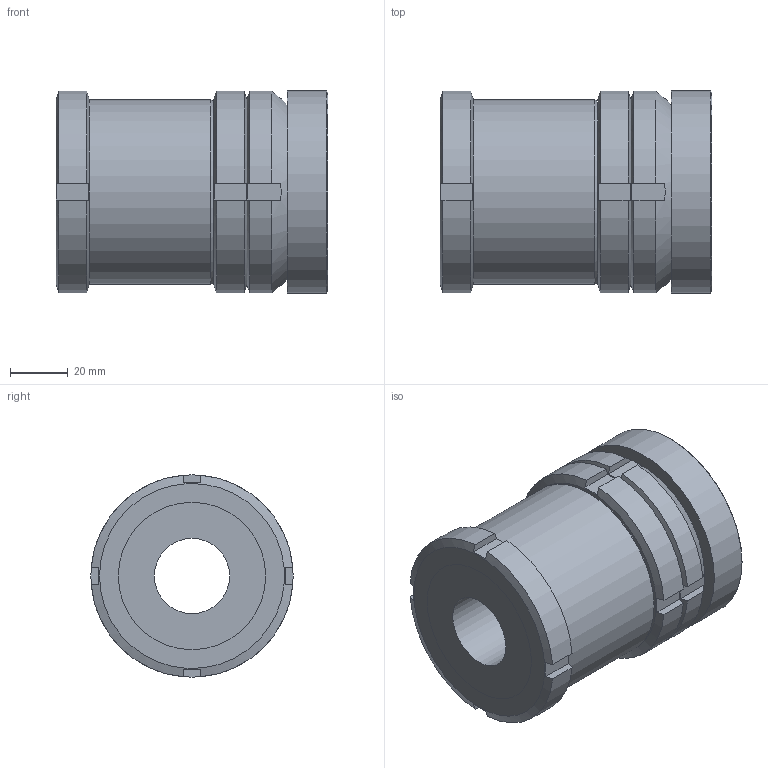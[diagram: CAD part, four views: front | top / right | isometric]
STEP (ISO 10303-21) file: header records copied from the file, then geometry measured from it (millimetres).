
FILE_DESCRIPTION( ( 'STEP AP203' ), '1' );
FILE_NAME( 'C:/Temp/Ganter_Step_05_03_2020/data/3_2/gn350_5/gn350_5_st/Levelling set GN 350.5-70-26-94-ST (0-0).stp', '2020-03-13T05:28:38', ( 'License CC BY-ND 4.0' ), ( 'CADENAS' ), ' ', 'PARTsolutions', ' ' );
FILE_SCHEMA( ( 'CONFIG_CONTROL_DESIGN' ) );
Length unit declared in the file: millimetre
Products named in the file (5): Levelling set GN 350.5-70-26-94-ST (0-0); _Levelling set GN 350.5-70-26-94-ST-G; _Levelling set GN 350.5-70-26-94-ST-K; _Levelling set GN 350.5-70-26-94-ST-P(0); _Levelling set GN 350.5-70-26-61-ST-KM
Assembly tree (4 placements, depth 2):
  Levelling set GN 350.5-70-26-94-ST (0-0)
    _Levelling set GN 350.5-70-26-94-ST-G
    _Levelling set GN 350.5-70-26-94-ST-K
    _Levelling set GN 350.5-70-26-94-ST-P(0)
    _Levelling set GN 350.5-70-26-61-ST-KM
Bounding box: 94 x 70 x 70 mm (x, y, z)
Volume: 275340.5 mm3; surface area: 69321.9 mm2
Topology: 4 solids, 4 shells, 85 faces, 211 edges, 140 vertices
Faces by surface type: plane 50, cylinder 24, cone 9, sphere 2
Full cylindrical faces by diameter (mm): 26 x1, 40 x1, 43.529 x1, 44.5 x1, 48.376 x1, 48.917 x1, 49 x1, 50 x1, 51 x2, 64 x1, 70 x1
Entity records: 2696 total; most frequent: CARTESIAN_POINT 698, DIRECTION 368, ORIENTED_EDGE 356, EDGE_CURVE 178, AXIS2_PLACEMENT_3D 160, VERTEX_POINT 130, EDGE_LOOP 122, FACE_OUTER_BOUND 99
